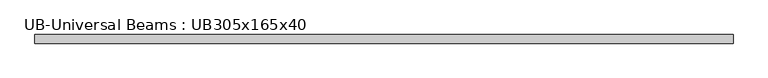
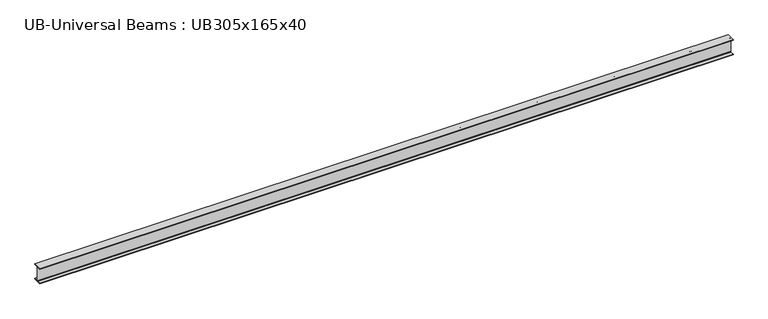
"""IFC4 building model written with IfcOpenShell, lengths in millimetres: beam geometry, UB-Universal Beams : UB305x165x40."""

from ifc_helpers import new_model, si_unit, point, frame, frame_2d, origin, place, context, project, spatial, polyline, circle_curve, trimmed, segment, composite_curve, outline, extrude, source, transform, mapped, element, save


def ub_universal_beams_ub305x165x40_38e517ae(model_context):
    return source(origin(), model_context, "Body", "SweptSolid", [
        extrude(outline(composite_curve([segment(polyline([(82.5, -141.5), (82.5, -151.7), (-82.5, -151.7), (-82.5, -141.5), (-11.9, -141.5)]), True, "CONTINUOUS"), segment(trimmed(circle_curve(frame_2d((-11.9, -132.6)), 8.9), [point((-11.9, -141.5))], [point((-3.0, -132.6))], True, "CARTESIAN"), True, "CONTINUOUS"), segment(polyline([(-3.0, -132.6), (-3.0, 132.6)]), True, "CONTINUOUS"), segment(trimmed(circle_curve(frame_2d((-11.9, 132.6)), 8.9), [point((-3.0, 132.6))], [point((-11.9, 141.5))], True, "CARTESIAN"), True, "CONTINUOUS"), segment(polyline([(-11.9, 141.5), (-82.5, 141.5), (-82.5, 151.7), (82.5, 151.7), (82.5, 141.5), (11.9, 141.5)]), True, "CONTINUOUS"), segment(trimmed(circle_curve(frame_2d((11.9, 132.6)), 8.9), [point((11.9, 141.5))], [point((3.0, 132.6))], True, "CARTESIAN"), True, "CONTINUOUS"), segment(polyline([(3.0, 132.6), (3.0, -132.6)]), True, "CONTINUOUS"), segment(trimmed(circle_curve(frame_2d((11.9, -132.6)), 8.9), [point((3.0, -132.6))], [point((11.9, -141.5))], True, "CARTESIAN"), True, "CONTINUOUS"), segment(polyline([(11.9, -141.5), (82.5, -141.5)]), True, "CONTINUOUS")], self_intersect=False)), frame((-6687.85, 0.0, 0.0), z_axis=(1.0, 0.0, 0.0), x_axis=(0.0, 1.0, 0.0)), (0.0, 0.0, 1.0), 13301.8),
    ])


if __name__ == "__main__":
    model = new_model("IFC4")
    model_context = context("Model", 3, world=origin())
    ifc_project = project(units=[si_unit("LENGTHUNIT", "METRE", prefix="MILLI")], contexts=[model_context])
    site = spatial("IfcSite", under=ifc_project)
    building = spatial("IfcBuilding", under=site)
    placement = place(None, origin())
    ub_universal_beams_ub305x165x40_shape = ub_universal_beams_ub305x165x40_38e517ae(model_context)
    element("IfcBeam", 1, ObjectType="UB-Universal Beams : UB305x165x40", at=placement, inside=building, context=model_context, shape_type="MappedRepresentation", body=[
        mapped(ub_universal_beams_ub305x165x40_shape, transform((0.0, 0.0, 0.0), x_axis=(1.0, 0.0, 0.0), y_axis=(0.0, 1.0, 0.0), z_axis=(0.0, 0.0, 1.0))),
    ])
    save(model, "model.ifc")
